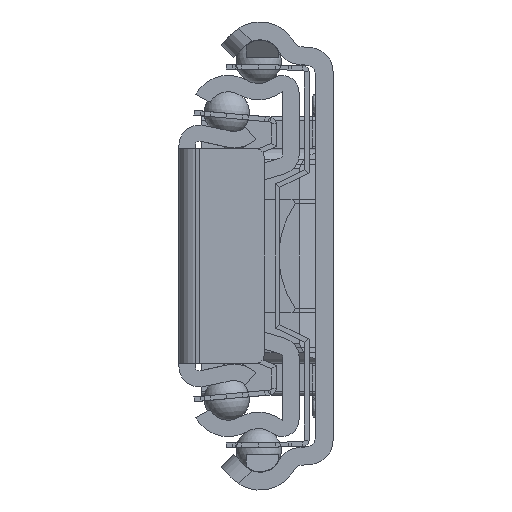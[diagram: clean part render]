
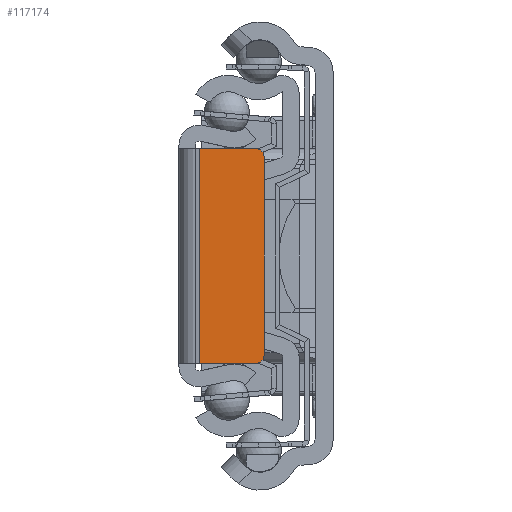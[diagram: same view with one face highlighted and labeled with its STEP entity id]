
A CAD part, left-side view. The second image highlights one B-rep face of the part: STEP entity #117174.
In plain terms, the highlighted planar face has unit normal (-1, 0, 0).
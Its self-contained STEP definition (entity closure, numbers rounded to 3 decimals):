
#111790=DIRECTION('',(0.,-1.,0.));
#111791=VECTOR('',#111790,7.);
#111792=CARTESIAN_POINT('',(0.,-2.,-13.25));
#111793=LINE('',#111792,#111791);
#111794=CARTESIAN_POINT('',(0.,-9.,-12.25));
#111795=DIRECTION('',(-1.,0.,0.));
#111796=DIRECTION('',(0.,0.,-1.));
#111797=AXIS2_PLACEMENT_3D('',#111794,#111795,#111796);
#111799=DIRECTION('',(0.,0.,-1.));
#111800=VECTOR('',#111799,26.5);
#111801=CARTESIAN_POINT('',(0.,-2.,13.25));
#111802=LINE('',#111801,#111800);
#111803=CARTESIAN_POINT('',(0.,-9.,12.25));
#111804=DIRECTION('',(-1.,0.,0.));
#111805=DIRECTION('',(0.,-1.,0.));
#111806=AXIS2_PLACEMENT_3D('',#111803,#111804,#111805);
#111812=DIRECTION('',(0.,-1.,0.));
#111813=VECTOR('',#111812,7.);
#111814=CARTESIAN_POINT('',(0.,-2.,13.25));
#111815=LINE('',#111814,#111813);
#111851=DIRECTION('',(0.,0.,1.));
#111852=VECTOR('',#111851,24.5);
#111853=CARTESIAN_POINT('',(0.,-10.,-12.25));
#111854=LINE('',#111853,#111852);
#115749=CARTESIAN_POINT('',(0.,-2.,-13.25));
#115751=VERTEX_POINT('',#115749);
#115758=CARTESIAN_POINT('',(0.,-2.,13.25));
#115760=VERTEX_POINT('',#115758);
#115777=CARTESIAN_POINT('',(0.,-9.,-13.25));
#115778=CARTESIAN_POINT('',(0.,-10.,-12.25));
#115779=VERTEX_POINT('',#115777);
#115780=VERTEX_POINT('',#115778);
#115789=CARTESIAN_POINT('',(0.,-10.,12.25));
#115790=VERTEX_POINT('',#115789);
#115791=CARTESIAN_POINT('',(0.,-9.,13.25));
#115792=VERTEX_POINT('',#115791);
#117158=CARTESIAN_POINT('',(0.,0.5,-13.25));
#117159=DIRECTION('',(-1.,0.,0.));
#117160=DIRECTION('',(0.,-1.,0.));
#117161=AXIS2_PLACEMENT_3D('',#117158,#117159,#117160);
#117162=PLANE('',#117161);
#117163=ORIENTED_EDGE('',*,*,#117148,.F.);
#117164=ORIENTED_EDGE('',*,*,#117138,.F.);
#117165=ORIENTED_EDGE('',*,*,#117118,.F.);
#117167=ORIENTED_EDGE('',*,*,#117166,.T.);
#117169=ORIENTED_EDGE('',*,*,#117168,.F.);
#117171=ORIENTED_EDGE('',*,*,#117170,.F.);
#117172=EDGE_LOOP('',(#117163,#117164,#117165,#117167,#117169,#117171));
#117173=FACE_OUTER_BOUND('',#117172,.F.);
#111798=CIRCLE('',#111797,1.);
#111807=CIRCLE('',#111806,1.);
#117118=EDGE_CURVE('',#115760,#115751,#111802,.T.);
#117138=EDGE_CURVE('',#115751,#115779,#111793,.T.);
#117148=EDGE_CURVE('',#115779,#115780,#111798,.T.);
#117166=EDGE_CURVE('',#115760,#115792,#111815,.T.);
#117168=EDGE_CURVE('',#115790,#115792,#111807,.T.);
#117170=EDGE_CURVE('',#115780,#115790,#111854,.T.);
#117174=ADVANCED_FACE('',(#117173),#117162,.T.);
